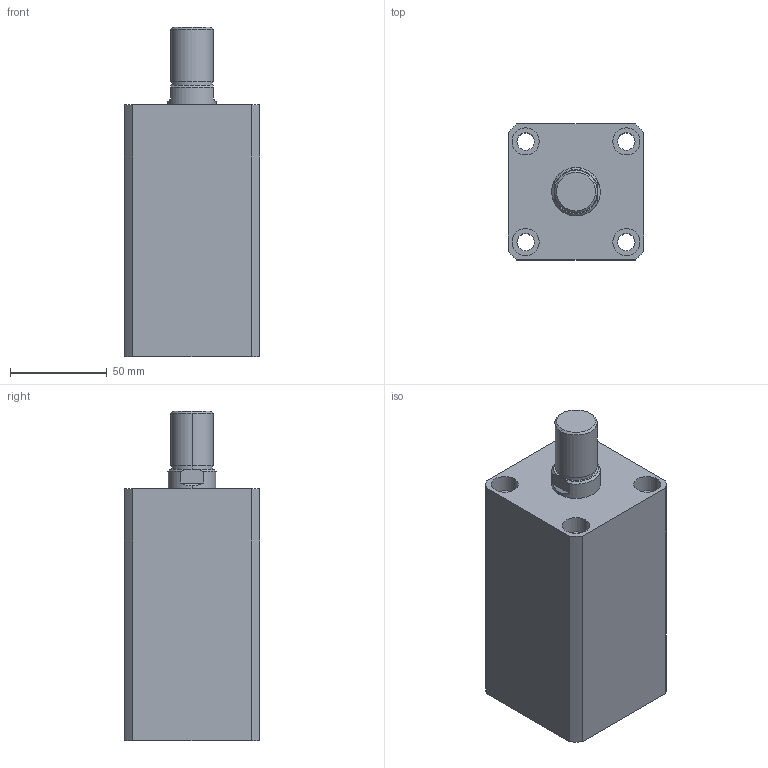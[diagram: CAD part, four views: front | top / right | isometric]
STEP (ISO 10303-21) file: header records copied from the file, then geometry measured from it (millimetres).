
FILE_DESCRIPTION (( 'STEP AP203' ), '1' );
FILE_NAME ('HTB-SDMB40-75W.STEP', '2019-10-09T02:18:03', ( '微软用户' ), ( '微软中国' ), 'SwSTEP 2.0', 'SolidWorks 2012', '' );
FILE_SCHEMA (( 'CONFIG_CONTROL_DESIGN' ));
Length unit declared in the file: millimetre
Products named in the file (3): HTB-SDMB40-75W; HTB-SDMB40-75W活塞杆; HTB-SDMB40-75掛极
Assembly tree (2 placements, depth 2):
  HTB-SDMB40-75W
    HTB-SDMB40-75掛极
    HTB-SDMB40-75W活塞杆
Bounding box: 70 x 70 x 170 mm (x, y, z)
Volume: 550526.8 mm3; surface area: 91490.7 mm2
Topology: 2 solids, 2 shells, 141 faces, 337 edges, 222 vertices
Faces by surface type: plane 67, cylinder 48, bspline 16, torus 6, cone 4
Entity records: 5180 total; most frequent: CARTESIAN_POINT 1597, ORIENTED_EDGE 674, DIRECTION 669, EDGE_CURVE 337, AXIS2_PLACEMENT_3D 242, VERTEX_POINT 222, VECTOR 185, LINE 185
